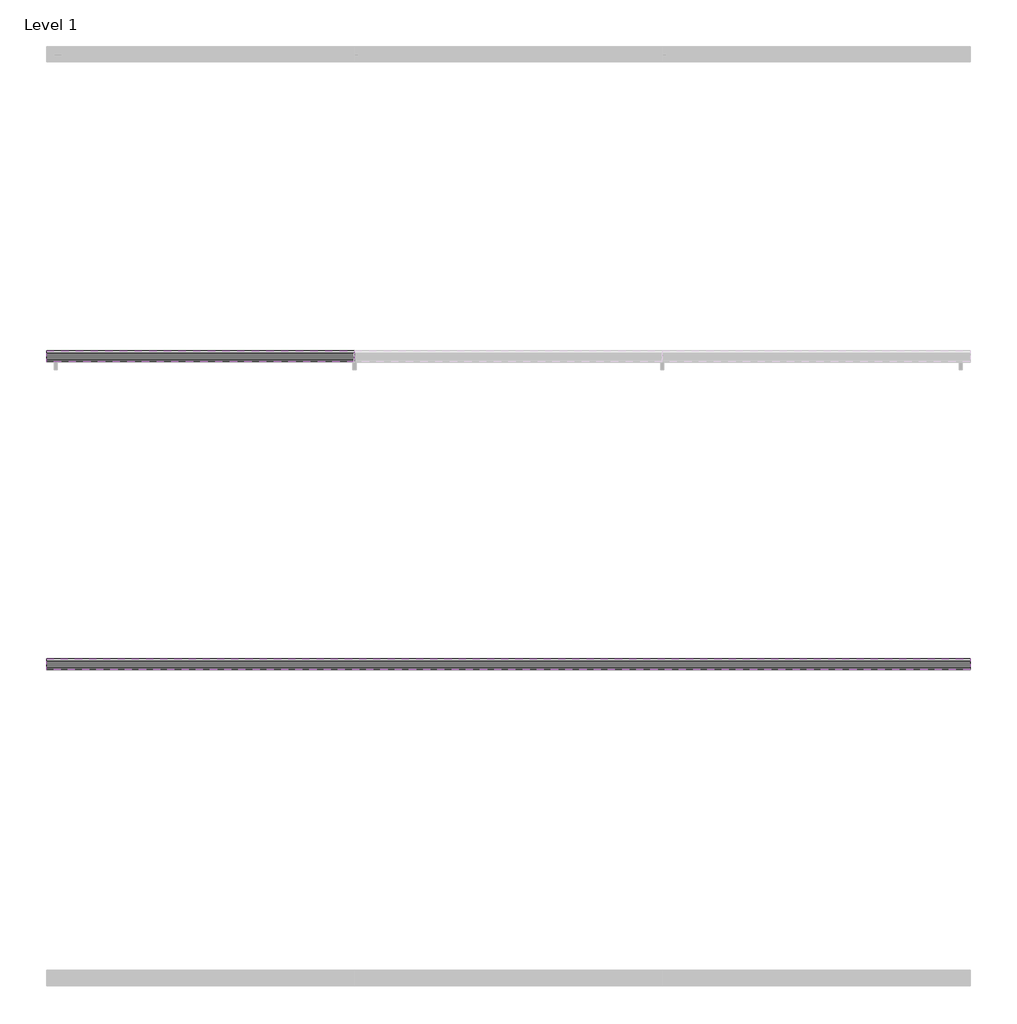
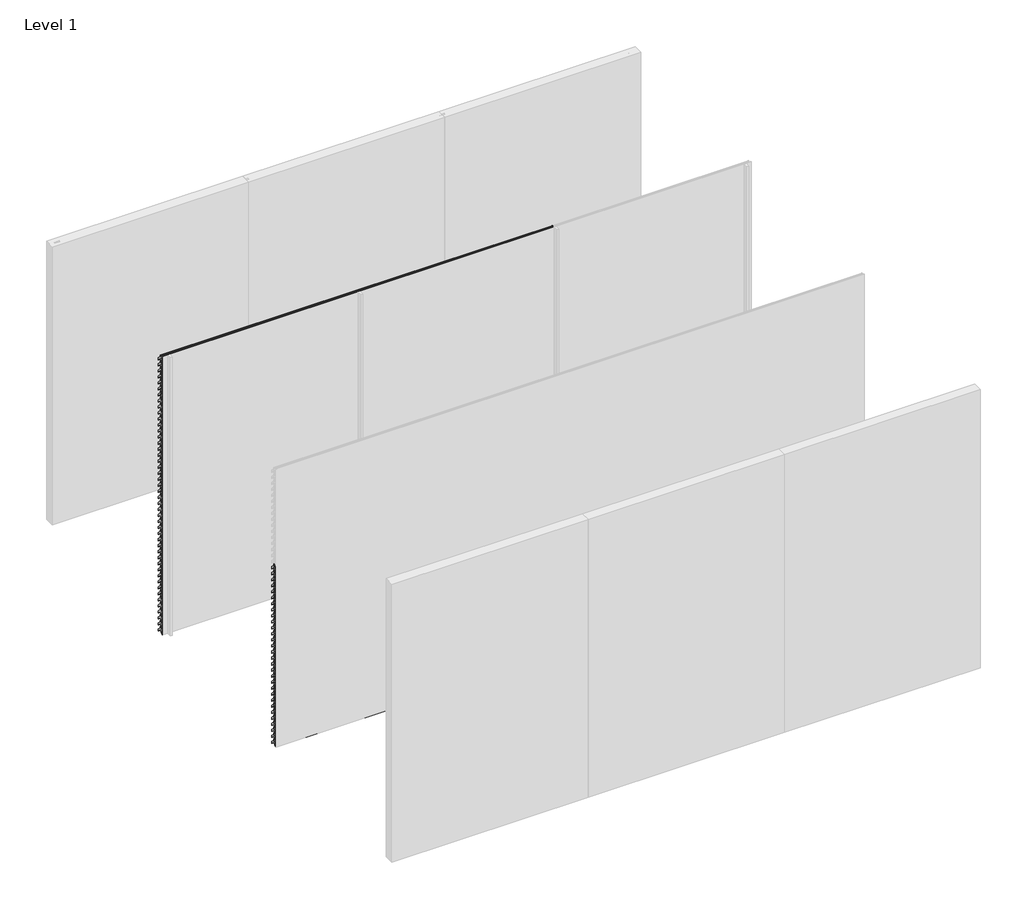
# One storey, part 6 of 9: 86 proxies.
"""IFC4 building model written with IfcOpenShell, lengths in millimetres."""

from ifc_helpers import new_model, si_unit, frame, origin, place, context, project, spatial, polyline, outline, extrude, element, save

model = new_model("IFC4")

# Units and contexts
model_context = context("Model", 3, world=origin())
ifc_project = project(units=[si_unit("LENGTHUNIT", "METRE", prefix="MILLI")], contexts=[model_context])

# Site, building, storey
site = spatial("IfcSite", under=ifc_project)
building = spatial("IfcBuilding", under=site)
storey = spatial("IfcBuildingStorey", under=building, Name="Level 1", Elevation=0.0)

# Proxies
placement = place(None, origin())
element("IfcBuildingElementProxy", 1, Name="Wall Sweeps", at=placement, inside=storey, context=model_context, shape_type="SweptSolid", body=[
    extrude(outline(polyline([(-5926.0, 2942.0), (-5926.0, 2919.0), (-5961.5, 2954.5), (-5997.0, 2919.0), (-5997.0, 2942.0), (-5962.5, 2976.5), (-5962.5, 2990.0), (-5960.5, 2990.0), (-5960.5, 2976.5), (-5926.0, 2942.0)])), frame((0.0, 0.0, 0.0), z_axis=(1.0, 0.0, 0.0), x_axis=(0.0, 1.0, 0.0)), (0.0, 0.0, 1.0), 2000.0),
])
element("IfcBuildingElementProxy", 2, Name="Wall Sweeps", at=placement, inside=storey, context=model_context, shape_type="SweptSolid", body=[
    extrude(outline(polyline([(-5926.0, 2877.0), (-5926.0, 2854.0), (-5961.5, 2889.5), (-5997.0, 2854.0), (-5997.0, 2877.0), (-5962.5, 2911.5), (-5962.5, 2925.0), (-5960.5, 2925.0), (-5960.5, 2911.5), (-5926.0, 2877.0)])), frame((0.0, 0.0, 0.0), z_axis=(1.0, 0.0, 0.0), x_axis=(0.0, 1.0, 0.0)), (0.0, 0.0, 1.0), 2000.0),
])
element("IfcBuildingElementProxy", 3, Name="Wall Sweeps", at=placement, inside=storey, context=model_context, shape_type="SweptSolid", body=[
    extrude(outline(polyline([(-5926.0, 2812.0), (-5926.0, 2789.0), (-5961.5, 2824.5), (-5997.0, 2789.0), (-5997.0, 2812.0), (-5962.5, 2846.5), (-5962.5, 2860.0), (-5960.5, 2860.0), (-5960.5, 2846.5), (-5926.0, 2812.0)])), frame((0.0, 0.0, 0.0), z_axis=(1.0, 0.0, 0.0), x_axis=(0.0, 1.0, 0.0)), (0.0, 0.0, 1.0), 2000.0),
])
element("IfcBuildingElementProxy", 4, Name="Wall Sweeps", at=placement, inside=storey, context=model_context, shape_type="SweptSolid", body=[
    extrude(outline(polyline([(-5926.0, 2747.0), (-5926.0, 2724.0), (-5961.5, 2759.5), (-5997.0, 2724.0), (-5997.0, 2747.0), (-5962.5, 2781.5), (-5962.5, 2795.0), (-5960.5, 2795.0), (-5960.5, 2781.5), (-5926.0, 2747.0)])), frame((0.0, 0.0, 0.0), z_axis=(1.0, 0.0, 0.0), x_axis=(0.0, 1.0, 0.0)), (0.0, 0.0, 1.0), 2000.0),
])
element("IfcBuildingElementProxy", 5, Name="Wall Sweeps", at=placement, inside=storey, context=model_context, shape_type="SweptSolid", body=[
    extrude(outline(polyline([(-5926.0, 2682.0), (-5926.0, 2659.0), (-5961.5, 2694.5), (-5997.0, 2659.0), (-5997.0, 2682.0), (-5962.5, 2716.5), (-5962.5, 2730.0), (-5960.5, 2730.0), (-5960.5, 2716.5), (-5926.0, 2682.0)])), frame((0.0, 0.0, 0.0), z_axis=(1.0, 0.0, 0.0), x_axis=(0.0, 1.0, 0.0)), (0.0, 0.0, 1.0), 2000.0),
])
element("IfcBuildingElementProxy", 6, Name="Wall Sweeps", at=placement, inside=storey, context=model_context, shape_type="SweptSolid", body=[
    extrude(outline(polyline([(-5926.0, 2617.0), (-5926.0, 2594.0), (-5961.5, 2629.5), (-5997.0, 2594.0), (-5997.0, 2617.0), (-5962.5, 2651.5), (-5962.5, 2665.0), (-5960.5, 2665.0), (-5960.5, 2651.5), (-5926.0, 2617.0)])), frame((0.0, 0.0, 0.0), z_axis=(1.0, 0.0, 0.0), x_axis=(0.0, 1.0, 0.0)), (0.0, 0.0, 1.0), 2000.0),
])
element("IfcBuildingElementProxy", 7, Name="Wall Sweeps", at=placement, inside=storey, context=model_context, shape_type="SweptSolid", body=[
    extrude(outline(polyline([(-5926.0, 2552.0), (-5926.0, 2529.0), (-5961.5, 2564.5), (-5997.0, 2529.0), (-5997.0, 2552.0), (-5962.5, 2586.5), (-5962.5, 2600.0), (-5960.5, 2600.0), (-5960.5, 2586.5), (-5926.0, 2552.0)])), frame((0.0, 0.0, 0.0), z_axis=(1.0, 0.0, 0.0), x_axis=(0.0, 1.0, 0.0)), (0.0, 0.0, 1.0), 2000.0),
])
element("IfcBuildingElementProxy", 8, Name="Wall Sweeps", at=placement, inside=storey, context=model_context, shape_type="SweptSolid", body=[
    extrude(outline(polyline([(-5926.0, 2487.0), (-5926.0, 2464.0), (-5961.5, 2499.5), (-5997.0, 2464.0), (-5997.0, 2487.0), (-5962.5, 2521.5), (-5962.5, 2535.0), (-5960.5, 2535.0), (-5960.5, 2521.5), (-5926.0, 2487.0)])), frame((0.0, 0.0, 0.0), z_axis=(1.0, 0.0, 0.0), x_axis=(0.0, 1.0, 0.0)), (0.0, 0.0, 1.0), 2000.0),
])
element("IfcBuildingElementProxy", 9, Name="Wall Sweeps", at=placement, inside=storey, context=model_context, shape_type="SweptSolid", body=[
    extrude(outline(polyline([(-5926.0, 2422.0), (-5926.0, 2399.0), (-5961.5, 2434.5), (-5997.0, 2399.0), (-5997.0, 2422.0), (-5962.5, 2456.5), (-5962.5, 2470.0), (-5960.5, 2470.0), (-5960.5, 2456.5), (-5926.0, 2422.0)])), frame((0.0, 0.0, 0.0), z_axis=(1.0, 0.0, 0.0), x_axis=(0.0, 1.0, 0.0)), (0.0, 0.0, 1.0), 2000.0),
])
element("IfcBuildingElementProxy", 10, Name="Wall Sweeps", at=placement, inside=storey, context=model_context, shape_type="SweptSolid", body=[
    extrude(outline(polyline([(-5926.0, 2357.0), (-5926.0, 2334.0), (-5961.5, 2369.5), (-5997.0, 2334.0), (-5997.0, 2357.0), (-5962.5, 2391.5), (-5962.5, 2405.0), (-5960.5, 2405.0), (-5960.5, 2391.5), (-5926.0, 2357.0)])), frame((0.0, 0.0, 0.0), z_axis=(1.0, 0.0, 0.0), x_axis=(0.0, 1.0, 0.0)), (0.0, 0.0, 1.0), 2000.0),
])
element("IfcBuildingElementProxy", 11, Name="Wall Sweeps", at=placement, inside=storey, context=model_context, shape_type="SweptSolid", body=[
    extrude(outline(polyline([(-5926.0, 2292.0), (-5926.0, 2269.0), (-5961.5, 2304.5), (-5997.0, 2269.0), (-5997.0, 2292.0), (-5962.5, 2326.5), (-5962.5, 2340.0), (-5960.5, 2340.0), (-5960.5, 2326.5), (-5926.0, 2292.0)])), frame((0.0, 0.0, 0.0), z_axis=(1.0, 0.0, 0.0), x_axis=(0.0, 1.0, 0.0)), (0.0, 0.0, 1.0), 2000.0),
])
element("IfcBuildingElementProxy", 12, Name="Wall Sweeps", at=placement, inside=storey, context=model_context, shape_type="SweptSolid", body=[
    extrude(outline(polyline([(-5926.0, 2227.0), (-5926.0, 2204.0), (-5961.5, 2239.5), (-5997.0, 2204.0), (-5997.0, 2227.0), (-5962.5, 2261.5), (-5962.5, 2275.0), (-5960.5, 2275.0), (-5960.5, 2261.5), (-5926.0, 2227.0)])), frame((0.0, 0.0, 0.0), z_axis=(1.0, 0.0, 0.0), x_axis=(0.0, 1.0, 0.0)), (0.0, 0.0, 1.0), 2000.0),
])
element("IfcBuildingElementProxy", 13, Name="Wall Sweeps", at=placement, inside=storey, context=model_context, shape_type="SweptSolid", body=[
    extrude(outline(polyline([(-5926.0, 2162.0), (-5926.0, 2139.0), (-5961.5, 2174.5), (-5997.0, 2139.0), (-5997.0, 2162.0), (-5962.5, 2196.5), (-5962.5, 2210.0), (-5960.5, 2210.0), (-5960.5, 2196.5), (-5926.0, 2162.0)])), frame((0.0, 0.0, 0.0), z_axis=(1.0, 0.0, 0.0), x_axis=(0.0, 1.0, 0.0)), (0.0, 0.0, 1.0), 2000.0),
])
element("IfcBuildingElementProxy", 14, Name="Wall Sweeps", at=placement, inside=storey, context=model_context, shape_type="SweptSolid", body=[
    extrude(outline(polyline([(-5926.0, 2097.0), (-5926.0, 2074.0), (-5961.5, 2109.5), (-5997.0, 2074.0), (-5997.0, 2097.0), (-5962.5, 2131.5), (-5962.5, 2145.0), (-5960.5, 2145.0), (-5960.5, 2131.5), (-5926.0, 2097.0)])), frame((0.0, 0.0, 0.0), z_axis=(1.0, 0.0, 0.0), x_axis=(0.0, 1.0, 0.0)), (0.0, 0.0, 1.0), 2000.0),
])
element("IfcBuildingElementProxy", 15, Name="Wall Sweeps", at=placement, inside=storey, context=model_context, shape_type="SweptSolid", body=[
    extrude(outline(polyline([(-5926.0, 2032.0), (-5926.0, 2009.0), (-5961.5, 2044.5), (-5997.0, 2009.0), (-5997.0, 2032.0), (-5962.5, 2066.5), (-5962.5, 2080.0), (-5960.5, 2080.0), (-5960.5, 2066.5), (-5926.0, 2032.0)])), frame((0.0, 0.0, 0.0), z_axis=(1.0, 0.0, 0.0), x_axis=(0.0, 1.0, 0.0)), (0.0, 0.0, 1.0), 2000.0),
])
element("IfcBuildingElementProxy", 16, Name="Wall Sweeps", at=placement, inside=storey, context=model_context, shape_type="SweptSolid", body=[
    extrude(outline(polyline([(-5926.0, 1967.0), (-5926.0, 1944.0), (-5961.5, 1979.5), (-5997.0, 1944.0), (-5997.0, 1967.0), (-5962.5, 2001.5), (-5962.5, 2015.0), (-5960.5, 2015.0), (-5960.5, 2001.5), (-5926.0, 1967.0)])), frame((0.0, 0.0, 0.0), z_axis=(1.0, 0.0, 0.0), x_axis=(0.0, 1.0, 0.0)), (0.0, 0.0, 1.0), 2000.0),
])
element("IfcBuildingElementProxy", 17, Name="Wall Sweeps", at=placement, inside=storey, context=model_context, shape_type="SweptSolid", body=[
    extrude(outline(polyline([(-5926.0, 1902.0), (-5926.0, 1879.0), (-5961.5, 1914.5), (-5997.0, 1879.0), (-5997.0, 1902.0), (-5962.5, 1936.5), (-5962.5, 1950.0), (-5960.5, 1950.0), (-5960.5, 1936.5), (-5926.0, 1902.0)])), frame((0.0, 0.0, 0.0), z_axis=(1.0, 0.0, 0.0), x_axis=(0.0, 1.0, 0.0)), (0.0, 0.0, 1.0), 2000.0),
])
element("IfcBuildingElementProxy", 18, Name="Wall Sweeps", at=placement, inside=storey, context=model_context, shape_type="SweptSolid", body=[
    extrude(outline(polyline([(-5926.0, 1837.0), (-5926.0, 1814.0), (-5961.5, 1849.5), (-5997.0, 1814.0), (-5997.0, 1837.0), (-5962.5, 1871.5), (-5962.5, 1885.0), (-5960.5, 1885.0), (-5960.5, 1871.5), (-5926.0, 1837.0)])), frame((0.0, 0.0, 0.0), z_axis=(1.0, 0.0, 0.0), x_axis=(0.0, 1.0, 0.0)), (0.0, 0.0, 1.0), 2000.0),
])
element("IfcBuildingElementProxy", 19, Name="Wall Sweeps", at=placement, inside=storey, context=model_context, shape_type="SweptSolid", body=[
    extrude(outline(polyline([(-5926.0, 1772.0), (-5926.0, 1749.0), (-5961.5, 1784.5), (-5997.0, 1749.0), (-5997.0, 1772.0), (-5962.5, 1806.5), (-5962.5, 1820.0), (-5960.5, 1820.0), (-5960.5, 1806.5), (-5926.0, 1772.0)])), frame((0.0, 0.0, 0.0), z_axis=(1.0, 0.0, 0.0), x_axis=(0.0, 1.0, 0.0)), (0.0, 0.0, 1.0), 2000.0),
])
element("IfcBuildingElementProxy", 20, Name="Wall Sweeps", at=placement, inside=storey, context=model_context, shape_type="SweptSolid", body=[
    extrude(outline(polyline([(-5926.0, 1707.0), (-5926.0, 1684.0), (-5961.5, 1719.5), (-5997.0, 1684.0), (-5997.0, 1707.0), (-5962.5, 1741.5), (-5962.5, 1755.0), (-5960.5, 1755.0), (-5960.5, 1741.5), (-5926.0, 1707.0)])), frame((0.0, 0.0, 0.0), z_axis=(1.0, 0.0, 0.0), x_axis=(0.0, 1.0, 0.0)), (0.0, 0.0, 1.0), 2000.0),
])
element("IfcBuildingElementProxy", 21, Name="Wall Sweeps", at=placement, inside=storey, context=model_context, shape_type="SweptSolid", body=[
    extrude(outline(polyline([(-5926.0, 1642.0), (-5926.0, 1619.0), (-5961.5, 1654.5), (-5997.0, 1619.0), (-5997.0, 1642.0), (-5962.5, 1676.5), (-5962.5, 1690.0), (-5960.5, 1690.0), (-5960.5, 1676.5), (-5926.0, 1642.0)])), frame((0.0, 0.0, 0.0), z_axis=(1.0, 0.0, 0.0), x_axis=(0.0, 1.0, 0.0)), (0.0, 0.0, 1.0), 2000.0),
])
element("IfcBuildingElementProxy", 22, Name="Wall Sweeps", at=placement, inside=storey, context=model_context, shape_type="SweptSolid", body=[
    extrude(outline(polyline([(-5926.0, 1577.0), (-5926.0, 1554.0), (-5961.5, 1589.5), (-5997.0, 1554.0), (-5997.0, 1577.0), (-5962.5, 1611.5), (-5962.5, 1625.0), (-5960.5, 1625.0), (-5960.5, 1611.5), (-5926.0, 1577.0)])), frame((0.0, 0.0, 0.0), z_axis=(1.0, 0.0, 0.0), x_axis=(0.0, 1.0, 0.0)), (0.0, 0.0, 1.0), 2000.0),
])
element("IfcBuildingElementProxy", 23, Name="Wall Sweeps", at=placement, inside=storey, context=model_context, shape_type="SweptSolid", body=[
    extrude(outline(polyline([(-5926.0, 1512.0), (-5926.0, 1489.0), (-5961.5, 1524.5), (-5997.0, 1489.0), (-5997.0, 1512.0), (-5962.5, 1546.5), (-5962.5, 1560.0), (-5960.5, 1560.0), (-5960.5, 1546.5), (-5926.0, 1512.0)])), frame((0.0, 0.0, 0.0), z_axis=(1.0, 0.0, 0.0), x_axis=(0.0, 1.0, 0.0)), (0.0, 0.0, 1.0), 2000.0),
])
element("IfcBuildingElementProxy", 24, Name="Wall Sweeps", at=placement, inside=storey, context=model_context, shape_type="SweptSolid", body=[
    extrude(outline(polyline([(-5926.0, 1447.0), (-5926.0, 1424.0), (-5961.5, 1459.5), (-5997.0, 1424.0), (-5997.0, 1447.0), (-5962.5, 1481.5), (-5962.5, 1495.0), (-5960.5, 1495.0), (-5960.5, 1481.5), (-5926.0, 1447.0)])), frame((0.0, 0.0, 0.0), z_axis=(1.0, 0.0, 0.0), x_axis=(0.0, 1.0, 0.0)), (0.0, 0.0, 1.0), 2000.0),
])
element("IfcBuildingElementProxy", 25, Name="Wall Sweeps", at=placement, inside=storey, context=model_context, shape_type="SweptSolid", body=[
    extrude(outline(polyline([(-5926.0, 1382.0), (-5926.0, 1359.0), (-5961.5, 1394.5), (-5997.0, 1359.0), (-5997.0, 1382.0), (-5962.5, 1416.5), (-5962.5, 1430.0), (-5960.5, 1430.0), (-5960.5, 1416.5), (-5926.0, 1382.0)])), frame((0.0, 0.0, 0.0), z_axis=(1.0, 0.0, 0.0), x_axis=(0.0, 1.0, 0.0)), (0.0, 0.0, 1.0), 2000.0),
])
element("IfcBuildingElementProxy", 26, Name="Wall Sweeps", at=placement, inside=storey, context=model_context, shape_type="SweptSolid", body=[
    extrude(outline(polyline([(-5926.0, 1317.0), (-5926.0, 1294.0), (-5961.5, 1329.5), (-5997.0, 1294.0), (-5997.0, 1317.0), (-5962.5, 1351.5), (-5962.5, 1365.0), (-5960.5, 1365.0), (-5960.5, 1351.5), (-5926.0, 1317.0)])), frame((0.0, 0.0, 0.0), z_axis=(1.0, 0.0, 0.0), x_axis=(0.0, 1.0, 0.0)), (0.0, 0.0, 1.0), 2000.0),
])
element("IfcBuildingElementProxy", 27, Name="Wall Sweeps", at=placement, inside=storey, context=model_context, shape_type="SweptSolid", body=[
    extrude(outline(polyline([(-5926.0, 1252.0), (-5926.0, 1229.0), (-5961.5, 1264.5), (-5997.0, 1229.0), (-5997.0, 1252.0), (-5962.5, 1286.5), (-5962.5, 1300.0), (-5960.5, 1300.0), (-5960.5, 1286.5), (-5926.0, 1252.0)])), frame((0.0, 0.0, 0.0), z_axis=(1.0, 0.0, 0.0), x_axis=(0.0, 1.0, 0.0)), (0.0, 0.0, 1.0), 2000.0),
])
element("IfcBuildingElementProxy", 28, Name="Wall Sweeps", at=placement, inside=storey, context=model_context, shape_type="SweptSolid", body=[
    extrude(outline(polyline([(-5926.0, 1187.0), (-5926.0, 1164.0), (-5961.5, 1199.5), (-5997.0, 1164.0), (-5997.0, 1187.0), (-5962.5, 1221.5), (-5962.5, 1235.0), (-5960.5, 1235.0), (-5960.5, 1221.5), (-5926.0, 1187.0)])), frame((0.0, 0.0, 0.0), z_axis=(1.0, 0.0, 0.0), x_axis=(0.0, 1.0, 0.0)), (0.0, 0.0, 1.0), 2000.0),
])
element("IfcBuildingElementProxy", 29, Name="Wall Sweeps", at=placement, inside=storey, context=model_context, shape_type="SweptSolid", body=[
    extrude(outline(polyline([(-5926.0, 1122.0), (-5926.0, 1099.0), (-5961.5, 1134.5), (-5997.0, 1099.0), (-5997.0, 1122.0), (-5962.5, 1156.5), (-5962.5, 1170.0), (-5960.5, 1170.0), (-5960.5, 1156.5), (-5926.0, 1122.0)])), frame((0.0, 0.0, 0.0), z_axis=(1.0, 0.0, 0.0), x_axis=(0.0, 1.0, 0.0)), (0.0, 0.0, 1.0), 2000.0),
])
element("IfcBuildingElementProxy", 30, Name="Wall Sweeps", at=placement, inside=storey, context=model_context, shape_type="SweptSolid", body=[
    extrude(outline(polyline([(-5926.0, 1057.0), (-5926.0, 1034.0), (-5961.5, 1069.5), (-5997.0, 1034.0), (-5997.0, 1057.0), (-5962.5, 1091.5), (-5962.5, 1105.0), (-5960.5, 1105.0), (-5960.5, 1091.5), (-5926.0, 1057.0)])), frame((0.0, 0.0, 0.0), z_axis=(1.0, 0.0, 0.0), x_axis=(0.0, 1.0, 0.0)), (0.0, 0.0, 1.0), 2000.0),
])
element("IfcBuildingElementProxy", 31, Name="Wall Sweeps", at=placement, inside=storey, context=model_context, shape_type="SweptSolid", body=[
    extrude(outline(polyline([(-5926.0, 992.0), (-5926.0, 969.0), (-5961.5, 1004.5), (-5997.0, 969.0), (-5997.0, 992.0), (-5962.5, 1026.5), (-5962.5, 1040.0), (-5960.5, 1040.0), (-5960.5, 1026.5), (-5926.0, 992.0)])), frame((0.0, 0.0, 0.0), z_axis=(1.0, 0.0, 0.0), x_axis=(0.0, 1.0, 0.0)), (0.0, 0.0, 1.0), 2000.0),
])
element("IfcBuildingElementProxy", 32, Name="Wall Sweeps", at=placement, inside=storey, context=model_context, shape_type="SweptSolid", body=[
    extrude(outline(polyline([(-5926.0, 927.0), (-5926.0, 904.0), (-5961.5, 939.5), (-5997.0, 904.0), (-5997.0, 927.0), (-5962.5, 961.5), (-5962.5, 975.0), (-5960.5, 975.0), (-5960.5, 961.5), (-5926.0, 927.0)])), frame((0.0, 0.0, 0.0), z_axis=(1.0, 0.0, 0.0), x_axis=(0.0, 1.0, 0.0)), (0.0, 0.0, 1.0), 2000.0),
])
element("IfcBuildingElementProxy", 33, Name="Wall Sweeps", at=placement, inside=storey, context=model_context, shape_type="SweptSolid", body=[
    extrude(outline(polyline([(-5926.0, 862.0), (-5926.0, 839.0), (-5961.5, 874.5), (-5997.0, 839.0), (-5997.0, 862.0), (-5962.5, 896.5), (-5962.5, 910.0), (-5960.5, 910.0), (-5960.5, 896.5), (-5926.0, 862.0)])), frame((0.0, 0.0, 0.0), z_axis=(1.0, 0.0, 0.0), x_axis=(0.0, 1.0, 0.0)), (0.0, 0.0, 1.0), 2000.0),
])
element("IfcBuildingElementProxy", 34, Name="Wall Sweeps", at=placement, inside=storey, context=model_context, shape_type="SweptSolid", body=[
    extrude(outline(polyline([(-5926.0, 797.0), (-5926.0, 774.0), (-5961.5, 809.5), (-5997.0, 774.0), (-5997.0, 797.0), (-5962.5, 831.5), (-5962.5, 845.0), (-5960.5, 845.0), (-5960.5, 831.5), (-5926.0, 797.0)])), frame((0.0, 0.0, 0.0), z_axis=(1.0, 0.0, 0.0), x_axis=(0.0, 1.0, 0.0)), (0.0, 0.0, 1.0), 2000.0),
])
element("IfcBuildingElementProxy", 35, Name="Wall Sweeps", at=placement, inside=storey, context=model_context, shape_type="SweptSolid", body=[
    extrude(outline(polyline([(-5926.0, 732.0), (-5926.0, 709.0), (-5961.5, 744.5), (-5997.0, 709.0), (-5997.0, 732.0), (-5962.5, 766.5), (-5962.5, 780.0), (-5960.5, 780.0), (-5960.5, 766.5), (-5926.0, 732.0)])), frame((0.0, 0.0, 0.0), z_axis=(1.0, 0.0, 0.0), x_axis=(0.0, 1.0, 0.0)), (0.0, 0.0, 1.0), 2000.0),
])
element("IfcBuildingElementProxy", 36, Name="Wall Sweeps", at=placement, inside=storey, context=model_context, shape_type="SweptSolid", body=[
    extrude(outline(polyline([(-5926.0, 667.0), (-5926.0, 644.0), (-5961.5, 679.5), (-5997.0, 644.0), (-5997.0, 667.0), (-5962.5, 701.5), (-5962.5, 715.0), (-5960.5, 715.0), (-5960.5, 701.5), (-5926.0, 667.0)])), frame((0.0, 0.0, 0.0), z_axis=(1.0, 0.0, 0.0), x_axis=(0.0, 1.0, 0.0)), (0.0, 0.0, 1.0), 2000.0),
])
element("IfcBuildingElementProxy", 37, Name="Wall Sweeps", at=placement, inside=storey, context=model_context, shape_type="SweptSolid", body=[
    extrude(outline(polyline([(-5926.0, 602.0), (-5926.0, 579.0), (-5961.5, 614.5), (-5997.0, 579.0), (-5997.0, 602.0), (-5962.5, 636.5), (-5962.5, 650.0), (-5960.5, 650.0), (-5960.5, 636.5), (-5926.0, 602.0)])), frame((0.0, 0.0, 0.0), z_axis=(1.0, 0.0, 0.0), x_axis=(0.0, 1.0, 0.0)), (0.0, 0.0, 1.0), 2000.0),
])
element("IfcBuildingElementProxy", 38, Name="Wall Sweeps", at=placement, inside=storey, context=model_context, shape_type="SweptSolid", body=[
    extrude(outline(polyline([(-5926.0, 537.0), (-5926.0, 514.0), (-5961.5, 549.5), (-5997.0, 514.0), (-5997.0, 537.0), (-5962.5, 571.5), (-5962.5, 585.0), (-5960.5, 585.0), (-5960.5, 571.5), (-5926.0, 537.0)])), frame((0.0, 0.0, 0.0), z_axis=(1.0, 0.0, 0.0), x_axis=(0.0, 1.0, 0.0)), (0.0, 0.0, 1.0), 2000.0),
])
element("IfcBuildingElementProxy", 39, Name="Wall Sweeps", at=placement, inside=storey, context=model_context, shape_type="SweptSolid", body=[
    extrude(outline(polyline([(-5926.0, 472.0), (-5926.0, 449.0), (-5961.5, 484.5), (-5997.0, 449.0), (-5997.0, 472.0), (-5962.5, 506.5), (-5962.5, 520.0), (-5960.5, 520.0), (-5960.5, 506.5), (-5926.0, 472.0)])), frame((0.0, 0.0, 0.0), z_axis=(1.0, 0.0, 0.0), x_axis=(0.0, 1.0, 0.0)), (0.0, 0.0, 1.0), 2000.0),
])
element("IfcBuildingElementProxy", 40, Name="Wall Sweeps", at=placement, inside=storey, context=model_context, shape_type="SweptSolid", body=[
    extrude(outline(polyline([(-5926.0, 407.0), (-5926.0, 384.0), (-5961.5, 419.5), (-5997.0, 384.0), (-5997.0, 407.0), (-5962.5, 441.5), (-5962.5, 455.0), (-5960.5, 455.0), (-5960.5, 441.5), (-5926.0, 407.0)])), frame((0.0, 0.0, 0.0), z_axis=(1.0, 0.0, 0.0), x_axis=(0.0, 1.0, 0.0)), (0.0, 0.0, 1.0), 2000.0),
])
element("IfcBuildingElementProxy", 41, Name="Wall Sweeps", at=placement, inside=storey, context=model_context, shape_type="SweptSolid", body=[
    extrude(outline(polyline([(-5926.0, 342.0), (-5926.0, 319.0), (-5961.5, 354.5), (-5997.0, 319.0), (-5997.0, 342.0), (-5962.5, 376.5), (-5962.5, 390.0), (-5960.5, 390.0), (-5960.5, 376.5), (-5926.0, 342.0)])), frame((0.0, 0.0, 0.0), z_axis=(1.0, 0.0, 0.0), x_axis=(0.0, 1.0, 0.0)), (0.0, 0.0, 1.0), 2000.0),
])
element("IfcBuildingElementProxy", 42, Name="Wall Sweeps", at=placement, inside=storey, context=model_context, shape_type="SweptSolid", body=[
    extrude(outline(polyline([(-5926.0, 277.0), (-5926.0, 254.0), (-5961.5, 289.5), (-5997.0, 254.0), (-5997.0, 277.0), (-5962.5, 311.5), (-5962.5, 325.0), (-5960.5, 325.0), (-5960.5, 311.5), (-5926.0, 277.0)])), frame((0.0, 0.0, 0.0), z_axis=(1.0, 0.0, 0.0), x_axis=(0.0, 1.0, 0.0)), (0.0, 0.0, 1.0), 2000.0),
])
element("IfcBuildingElementProxy", 43, Name="Wall Sweeps", at=placement, inside=storey, context=model_context, shape_type="SweptSolid", body=[
    extrude(outline(polyline([(-5926.0, 212.0), (-5926.0, 189.0), (-5961.5, 224.5), (-5997.0, 189.0), (-5997.0, 212.0), (-5962.5, 246.5), (-5962.5, 260.0), (-5960.5, 260.0), (-5960.5, 246.5), (-5926.0, 212.0)])), frame((0.0, 0.0, 0.0), z_axis=(1.0, 0.0, 0.0), x_axis=(0.0, 1.0, 0.0)), (0.0, 0.0, 1.0), 2000.0),
])
element("IfcBuildingElementProxy", 44, Name="Wall Sweeps", at=placement, inside=storey, context=model_context, shape_type="SweptSolid", body=[
    extrude(outline(polyline([(-5926.0, 147.0), (-5926.0, 124.0), (-5961.5, 159.5), (-5997.0, 124.0), (-5997.0, 147.0), (-5962.5, 181.5), (-5962.5, 195.0), (-5960.5, 195.0), (-5960.5, 181.5), (-5926.0, 147.0)])), frame((0.0, 0.0, 0.0), z_axis=(1.0, 0.0, 0.0), x_axis=(0.0, 1.0, 0.0)), (0.0, 0.0, 1.0), 2000.0),
])
element("IfcBuildingElementProxy", 45, Name="Wall Sweeps", at=placement, inside=storey, context=model_context, shape_type="SweptSolid", body=[
    extrude(outline(polyline([(-5926.0, 82.0), (-5926.0, 59.0), (-5961.5, 94.5), (-5997.0, 59.0), (-5997.0, 82.0), (-5962.5, 116.5), (-5962.5, 130.0), (-5960.5, 130.0), (-5960.5, 116.5), (-5926.0, 82.0)])), frame((0.0, 0.0, 0.0), z_axis=(1.0, 0.0, 0.0), x_axis=(0.0, 1.0, 0.0)), (0.0, 0.0, 1.0), 2000.0),
])
element("IfcBuildingElementProxy", 46, Name="Wall Sweeps", at=placement, inside=storey, context=model_context, shape_type="SweptSolid", body=[
    extrude(outline(polyline([(-5926.0, 17.0), (-5926.0, -6.0), (-5961.5, 29.5), (-5997.0, -6.0), (-5997.0, 17.0), (-5962.5, 51.5), (-5962.5, 65.0), (-5960.5, 65.0), (-5960.5, 51.5), (-5926.0, 17.0)])), frame((0.0, 0.0, 0.0), z_axis=(1.0, 0.0, 0.0), x_axis=(0.0, 1.0, 0.0)), (0.0, 0.0, 1.0), 2000.0),
])
element("IfcBuildingElementProxy", 47, Name="Wall Sweeps", at=placement, inside=storey, context=model_context, shape_type="SweptSolid", body=[
    extrude(outline(polyline([(-5926.0, 2942.0), (-5926.0, 2919.0), (-5961.5, 2954.5), (-5997.0, 2919.0), (-5997.0, 2942.0), (-5962.5, 2976.5), (-5962.5, 2990.0), (-5960.5, 2990.0), (-5960.5, 2976.5), (-5926.0, 2942.0)])), frame((2000.0, 0.0, 0.0), z_axis=(1.0, 0.0, 0.0), x_axis=(0.0, 1.0, 0.0)), (0.0, 0.0, 1.0), 2000.0),
])
element("IfcBuildingElementProxy", 48, Name="Wall Sweeps", at=placement, inside=storey, context=model_context, shape_type="SweptSolid", body=[
    extrude(outline(polyline([(-5926.0, 2877.0), (-5926.0, 2854.0), (-5961.5, 2889.5), (-5997.0, 2854.0), (-5997.0, 2877.0), (-5962.5, 2911.5), (-5962.5, 2925.0), (-5960.5, 2925.0), (-5960.5, 2911.5), (-5926.0, 2877.0)])), frame((2000.0, 0.0, 0.0), z_axis=(1.0, 0.0, 0.0), x_axis=(0.0, 1.0, 0.0)), (0.0, 0.0, 1.0), 2000.0),
])
element("IfcBuildingElementProxy", 49, Name="Wall Sweeps", at=placement, inside=storey, context=model_context, shape_type="SweptSolid", body=[
    extrude(outline(polyline([(-5926.0, 2812.0), (-5926.0, 2789.0), (-5961.5, 2824.5), (-5997.0, 2789.0), (-5997.0, 2812.0), (-5962.5, 2846.5), (-5962.5, 2860.0), (-5960.5, 2860.0), (-5960.5, 2846.5), (-5926.0, 2812.0)])), frame((2000.0, 0.0, 0.0), z_axis=(1.0, 0.0, 0.0), x_axis=(0.0, 1.0, 0.0)), (0.0, 0.0, 1.0), 2000.0),
])
element("IfcBuildingElementProxy", 50, Name="Wall Sweeps", at=placement, inside=storey, context=model_context, shape_type="SweptSolid", body=[
    extrude(outline(polyline([(-5926.0, 2747.0), (-5926.0, 2724.0), (-5961.5, 2759.5), (-5997.0, 2724.0), (-5997.0, 2747.0), (-5962.5, 2781.5), (-5962.5, 2795.0), (-5960.5, 2795.0), (-5960.5, 2781.5), (-5926.0, 2747.0)])), frame((2000.0, 0.0, 0.0), z_axis=(1.0, 0.0, 0.0), x_axis=(0.0, 1.0, 0.0)), (0.0, 0.0, 1.0), 2000.0),
])
element("IfcBuildingElementProxy", 51, Name="Wall Sweeps", at=placement, inside=storey, context=model_context, shape_type="SweptSolid", body=[
    extrude(outline(polyline([(-5926.0, 2682.0), (-5926.0, 2659.0), (-5961.5, 2694.5), (-5997.0, 2659.0), (-5997.0, 2682.0), (-5962.5, 2716.5), (-5962.5, 2730.0), (-5960.5, 2730.0), (-5960.5, 2716.5), (-5926.0, 2682.0)])), frame((2000.0, 0.0, 0.0), z_axis=(1.0, 0.0, 0.0), x_axis=(0.0, 1.0, 0.0)), (0.0, 0.0, 1.0), 2000.0),
])
element("IfcBuildingElementProxy", 52, Name="Wall Sweeps", at=placement, inside=storey, context=model_context, shape_type="SweptSolid", body=[
    extrude(outline(polyline([(-5926.0, 2617.0), (-5926.0, 2594.0), (-5961.5, 2629.5), (-5997.0, 2594.0), (-5997.0, 2617.0), (-5962.5, 2651.5), (-5962.5, 2665.0), (-5960.5, 2665.0), (-5960.5, 2651.5), (-5926.0, 2617.0)])), frame((2000.0, 0.0, 0.0), z_axis=(1.0, 0.0, 0.0), x_axis=(0.0, 1.0, 0.0)), (0.0, 0.0, 1.0), 2000.0),
])
element("IfcBuildingElementProxy", 53, Name="Wall Sweeps", at=placement, inside=storey, context=model_context, shape_type="SweptSolid", body=[
    extrude(outline(polyline([(-5926.0, 2552.0), (-5926.0, 2529.0), (-5961.5, 2564.5), (-5997.0, 2529.0), (-5997.0, 2552.0), (-5962.5, 2586.5), (-5962.5, 2600.0), (-5960.5, 2600.0), (-5960.5, 2586.5), (-5926.0, 2552.0)])), frame((2000.0, 0.0, 0.0), z_axis=(1.0, 0.0, 0.0), x_axis=(0.0, 1.0, 0.0)), (0.0, 0.0, 1.0), 2000.0),
])
element("IfcBuildingElementProxy", 54, Name="Wall Sweeps", at=placement, inside=storey, context=model_context, shape_type="SweptSolid", body=[
    extrude(outline(polyline([(-5926.0, 2487.0), (-5926.0, 2464.0), (-5961.5, 2499.5), (-5997.0, 2464.0), (-5997.0, 2487.0), (-5962.5, 2521.5), (-5962.5, 2535.0), (-5960.5, 2535.0), (-5960.5, 2521.5), (-5926.0, 2487.0)])), frame((2000.0, 0.0, 0.0), z_axis=(1.0, 0.0, 0.0), x_axis=(0.0, 1.0, 0.0)), (0.0, 0.0, 1.0), 2000.0),
])
element("IfcBuildingElementProxy", 55, Name="Wall Sweeps", at=placement, inside=storey, context=model_context, shape_type="SweptSolid", body=[
    extrude(outline(polyline([(-5926.0, 2422.0), (-5926.0, 2399.0), (-5961.5, 2434.5), (-5997.0, 2399.0), (-5997.0, 2422.0), (-5962.5, 2456.5), (-5962.5, 2470.0), (-5960.5, 2470.0), (-5960.5, 2456.5), (-5926.0, 2422.0)])), frame((2000.0, 0.0, 0.0), z_axis=(1.0, 0.0, 0.0), x_axis=(0.0, 1.0, 0.0)), (0.0, 0.0, 1.0), 2000.0),
])
element("IfcBuildingElementProxy", 56, Name="Wall Sweeps", at=placement, inside=storey, context=model_context, shape_type="SweptSolid", body=[
    extrude(outline(polyline([(-5926.0, 2357.0), (-5926.0, 2334.0), (-5961.5, 2369.5), (-5997.0, 2334.0), (-5997.0, 2357.0), (-5962.5, 2391.5), (-5962.5, 2405.0), (-5960.5, 2405.0), (-5960.5, 2391.5), (-5926.0, 2357.0)])), frame((2000.0, 0.0, 0.0), z_axis=(1.0, 0.0, 0.0), x_axis=(0.0, 1.0, 0.0)), (0.0, 0.0, 1.0), 2000.0),
])
element("IfcBuildingElementProxy", 57, Name="Wall Sweeps", at=placement, inside=storey, context=model_context, shape_type="SweptSolid", body=[
    extrude(outline(polyline([(-7926.0, 1902.0), (-7926.0, 1879.0), (-7961.5, 1914.5), (-7997.0, 1879.0), (-7997.0, 1902.0), (-7962.5, 1936.5), (-7962.5, 1950.0), (-7960.5, 1950.0), (-7960.5, 1936.5), (-7926.0, 1902.0)])), frame((0.0, 0.0, 0.0), z_axis=(1.0, 0.0, 0.0), x_axis=(0.0, 1.0, 0.0)), (0.0, 0.0, 1.0), 6000.0),
])
element("IfcBuildingElementProxy", 58, Name="Wall Sweeps", at=placement, inside=storey, context=model_context, shape_type="SweptSolid", body=[
    extrude(outline(polyline([(-7926.0, 1837.0), (-7926.0, 1814.0), (-7961.5, 1849.5), (-7997.0, 1814.0), (-7997.0, 1837.0), (-7962.5, 1871.5), (-7962.5, 1885.0), (-7960.5, 1885.0), (-7960.5, 1871.5), (-7926.0, 1837.0)])), frame((0.0, 0.0, 0.0), z_axis=(1.0, 0.0, 0.0), x_axis=(0.0, 1.0, 0.0)), (0.0, 0.0, 1.0), 6000.0),
])
element("IfcBuildingElementProxy", 59, Name="Wall Sweeps", at=placement, inside=storey, context=model_context, shape_type="SweptSolid", body=[
    extrude(outline(polyline([(-7926.0, 1772.0), (-7926.0, 1749.0), (-7961.5, 1784.5), (-7997.0, 1749.0), (-7997.0, 1772.0), (-7962.5, 1806.5), (-7962.5, 1820.0), (-7960.5, 1820.0), (-7960.5, 1806.5), (-7926.0, 1772.0)])), frame((0.0, 0.0, 0.0), z_axis=(1.0, 0.0, 0.0), x_axis=(0.0, 1.0, 0.0)), (0.0, 0.0, 1.0), 6000.0),
])
element("IfcBuildingElementProxy", 60, Name="Wall Sweeps", at=placement, inside=storey, context=model_context, shape_type="SweptSolid", body=[
    extrude(outline(polyline([(-7926.0, 1707.0), (-7926.0, 1684.0), (-7961.5, 1719.5), (-7997.0, 1684.0), (-7997.0, 1707.0), (-7962.5, 1741.5), (-7962.5, 1755.0), (-7960.5, 1755.0), (-7960.5, 1741.5), (-7926.0, 1707.0)])), frame((0.0, 0.0, 0.0), z_axis=(1.0, 0.0, 0.0), x_axis=(0.0, 1.0, 0.0)), (0.0, 0.0, 1.0), 6000.0),
])
element("IfcBuildingElementProxy", 61, Name="Wall Sweeps", at=placement, inside=storey, context=model_context, shape_type="SweptSolid", body=[
    extrude(outline(polyline([(-7926.0, 1642.0), (-7926.0, 1619.0), (-7961.5, 1654.5), (-7997.0, 1619.0), (-7997.0, 1642.0), (-7962.5, 1676.5), (-7962.5, 1690.0), (-7960.5, 1690.0), (-7960.5, 1676.5), (-7926.0, 1642.0)])), frame((0.0, 0.0, 0.0), z_axis=(1.0, 0.0, 0.0), x_axis=(0.0, 1.0, 0.0)), (0.0, 0.0, 1.0), 6000.0),
])
element("IfcBuildingElementProxy", 62, Name="Wall Sweeps", at=placement, inside=storey, context=model_context, shape_type="SweptSolid", body=[
    extrude(outline(polyline([(-7926.0, 1577.0), (-7926.0, 1554.0), (-7961.5, 1589.5), (-7997.0, 1554.0), (-7997.0, 1577.0), (-7962.5, 1611.5), (-7962.5, 1625.0), (-7960.5, 1625.0), (-7960.5, 1611.5), (-7926.0, 1577.0)])), frame((0.0, 0.0, 0.0), z_axis=(1.0, 0.0, 0.0), x_axis=(0.0, 1.0, 0.0)), (0.0, 0.0, 1.0), 6000.0),
])
element("IfcBuildingElementProxy", 63, Name="Wall Sweeps", at=placement, inside=storey, context=model_context, shape_type="SweptSolid", body=[
    extrude(outline(polyline([(-7926.0, 1512.0), (-7926.0, 1489.0), (-7961.5, 1524.5), (-7997.0, 1489.0), (-7997.0, 1512.0), (-7962.5, 1546.5), (-7962.5, 1560.0), (-7960.5, 1560.0), (-7960.5, 1546.5), (-7926.0, 1512.0)])), frame((0.0, 0.0, 0.0), z_axis=(1.0, 0.0, 0.0), x_axis=(0.0, 1.0, 0.0)), (0.0, 0.0, 1.0), 6000.0),
])
element("IfcBuildingElementProxy", 64, Name="Wall Sweeps", at=placement, inside=storey, context=model_context, shape_type="SweptSolid", body=[
    extrude(outline(polyline([(-7926.0, 1447.0), (-7926.0, 1424.0), (-7961.5, 1459.5), (-7997.0, 1424.0), (-7997.0, 1447.0), (-7962.5, 1481.5), (-7962.5, 1495.0), (-7960.5, 1495.0), (-7960.5, 1481.5), (-7926.0, 1447.0)])), frame((0.0, 0.0, 0.0), z_axis=(1.0, 0.0, 0.0), x_axis=(0.0, 1.0, 0.0)), (0.0, 0.0, 1.0), 6000.0),
])
element("IfcBuildingElementProxy", 65, Name="Wall Sweeps", at=placement, inside=storey, context=model_context, shape_type="SweptSolid", body=[
    extrude(outline(polyline([(-7926.0, 1382.0), (-7926.0, 1359.0), (-7961.5, 1394.5), (-7997.0, 1359.0), (-7997.0, 1382.0), (-7962.5, 1416.5), (-7962.5, 1430.0), (-7960.5, 1430.0), (-7960.5, 1416.5), (-7926.0, 1382.0)])), frame((0.0, 0.0, 0.0), z_axis=(1.0, 0.0, 0.0), x_axis=(0.0, 1.0, 0.0)), (0.0, 0.0, 1.0), 6000.0),
])
element("IfcBuildingElementProxy", 66, Name="Wall Sweeps", at=placement, inside=storey, context=model_context, shape_type="SweptSolid", body=[
    extrude(outline(polyline([(-7926.0, 1317.0), (-7926.0, 1294.0), (-7961.5, 1329.5), (-7997.0, 1294.0), (-7997.0, 1317.0), (-7962.5, 1351.5), (-7962.5, 1365.0), (-7960.5, 1365.0), (-7960.5, 1351.5), (-7926.0, 1317.0)])), frame((0.0, 0.0, 0.0), z_axis=(1.0, 0.0, 0.0), x_axis=(0.0, 1.0, 0.0)), (0.0, 0.0, 1.0), 6000.0),
])
element("IfcBuildingElementProxy", 67, Name="Wall Sweeps", at=placement, inside=storey, context=model_context, shape_type="SweptSolid", body=[
    extrude(outline(polyline([(-7926.0, 1252.0), (-7926.0, 1229.0), (-7961.5, 1264.5), (-7997.0, 1229.0), (-7997.0, 1252.0), (-7962.5, 1286.5), (-7962.5, 1300.0), (-7960.5, 1300.0), (-7960.5, 1286.5), (-7926.0, 1252.0)])), frame((0.0, 0.0, 0.0), z_axis=(1.0, 0.0, 0.0), x_axis=(0.0, 1.0, 0.0)), (0.0, 0.0, 1.0), 6000.0),
])
element("IfcBuildingElementProxy", 68, Name="Wall Sweeps", at=placement, inside=storey, context=model_context, shape_type="SweptSolid", body=[
    extrude(outline(polyline([(-7926.0, 1187.0), (-7926.0, 1164.0), (-7961.5, 1199.5), (-7997.0, 1164.0), (-7997.0, 1187.0), (-7962.5, 1221.5), (-7962.5, 1235.0), (-7960.5, 1235.0), (-7960.5, 1221.5), (-7926.0, 1187.0)])), frame((0.0, 0.0, 0.0), z_axis=(1.0, 0.0, 0.0), x_axis=(0.0, 1.0, 0.0)), (0.0, 0.0, 1.0), 6000.0),
])
element("IfcBuildingElementProxy", 69, Name="Wall Sweeps", at=placement, inside=storey, context=model_context, shape_type="SweptSolid", body=[
    extrude(outline(polyline([(-7926.0, 1122.0), (-7926.0, 1099.0), (-7961.5, 1134.5), (-7997.0, 1099.0), (-7997.0, 1122.0), (-7962.5, 1156.5), (-7962.5, 1170.0), (-7960.5, 1170.0), (-7960.5, 1156.5), (-7926.0, 1122.0)])), frame((0.0, 0.0, 0.0), z_axis=(1.0, 0.0, 0.0), x_axis=(0.0, 1.0, 0.0)), (0.0, 0.0, 1.0), 6000.0),
])
element("IfcBuildingElementProxy", 70, Name="Wall Sweeps", at=placement, inside=storey, context=model_context, shape_type="SweptSolid", body=[
    extrude(outline(polyline([(-7926.0, 1057.0), (-7926.0, 1034.0), (-7961.5, 1069.5), (-7997.0, 1034.0), (-7997.0, 1057.0), (-7962.5, 1091.5), (-7962.5, 1105.0), (-7960.5, 1105.0), (-7960.5, 1091.5), (-7926.0, 1057.0)])), frame((0.0, 0.0, 0.0), z_axis=(1.0, 0.0, 0.0), x_axis=(0.0, 1.0, 0.0)), (0.0, 0.0, 1.0), 6000.0),
])
element("IfcBuildingElementProxy", 71, Name="Wall Sweeps", at=placement, inside=storey, context=model_context, shape_type="SweptSolid", body=[
    extrude(outline(polyline([(-7926.0, 992.0), (-7926.0, 969.0), (-7961.5, 1004.5), (-7997.0, 969.0), (-7997.0, 992.0), (-7962.5, 1026.5), (-7962.5, 1040.0), (-7960.5, 1040.0), (-7960.5, 1026.5), (-7926.0, 992.0)])), frame((0.0, 0.0, 0.0), z_axis=(1.0, 0.0, 0.0), x_axis=(0.0, 1.0, 0.0)), (0.0, 0.0, 1.0), 6000.0),
])
element("IfcBuildingElementProxy", 72, Name="Wall Sweeps", at=placement, inside=storey, context=model_context, shape_type="SweptSolid", body=[
    extrude(outline(polyline([(-7926.0, 927.0), (-7926.0, 904.0), (-7961.5, 939.5), (-7997.0, 904.0), (-7997.0, 927.0), (-7962.5, 961.5), (-7962.5, 975.0), (-7960.5, 975.0), (-7960.5, 961.5), (-7926.0, 927.0)])), frame((0.0, 0.0, 0.0), z_axis=(1.0, 0.0, 0.0), x_axis=(0.0, 1.0, 0.0)), (0.0, 0.0, 1.0), 6000.0),
])
element("IfcBuildingElementProxy", 73, Name="Wall Sweeps", at=placement, inside=storey, context=model_context, shape_type="SweptSolid", body=[
    extrude(outline(polyline([(-7926.0, 862.0), (-7926.0, 839.0), (-7961.5, 874.5), (-7997.0, 839.0), (-7997.0, 862.0), (-7962.5, 896.5), (-7962.5, 910.0), (-7960.5, 910.0), (-7960.5, 896.5), (-7926.0, 862.0)])), frame((0.0, 0.0, 0.0), z_axis=(1.0, 0.0, 0.0), x_axis=(0.0, 1.0, 0.0)), (0.0, 0.0, 1.0), 6000.0),
])
element("IfcBuildingElementProxy", 74, Name="Wall Sweeps", at=placement, inside=storey, context=model_context, shape_type="SweptSolid", body=[
    extrude(outline(polyline([(-7926.0, 797.0), (-7926.0, 774.0), (-7961.5, 809.5), (-7997.0, 774.0), (-7997.0, 797.0), (-7962.5, 831.5), (-7962.5, 845.0), (-7960.5, 845.0), (-7960.5, 831.5), (-7926.0, 797.0)])), frame((0.0, 0.0, 0.0), z_axis=(1.0, 0.0, 0.0), x_axis=(0.0, 1.0, 0.0)), (0.0, 0.0, 1.0), 6000.0),
])
element("IfcBuildingElementProxy", 75, Name="Wall Sweeps", at=placement, inside=storey, context=model_context, shape_type="SweptSolid", body=[
    extrude(outline(polyline([(-7926.0, 732.0), (-7926.0, 709.0), (-7961.5, 744.5), (-7997.0, 709.0), (-7997.0, 732.0), (-7962.5, 766.5), (-7962.5, 780.0), (-7960.5, 780.0), (-7960.5, 766.5), (-7926.0, 732.0)])), frame((0.0, 0.0, 0.0), z_axis=(1.0, 0.0, 0.0), x_axis=(0.0, 1.0, 0.0)), (0.0, 0.0, 1.0), 6000.0),
])
element("IfcBuildingElementProxy", 76, Name="Wall Sweeps", at=placement, inside=storey, context=model_context, shape_type="SweptSolid", body=[
    extrude(outline(polyline([(-7926.0, 667.0), (-7926.0, 644.0), (-7961.5, 679.5), (-7997.0, 644.0), (-7997.0, 667.0), (-7962.5, 701.5), (-7962.5, 715.0), (-7960.5, 715.0), (-7960.5, 701.5), (-7926.0, 667.0)])), frame((0.0, 0.0, 0.0), z_axis=(1.0, 0.0, 0.0), x_axis=(0.0, 1.0, 0.0)), (0.0, 0.0, 1.0), 6000.0),
])
element("IfcBuildingElementProxy", 77, Name="Wall Sweeps", at=placement, inside=storey, context=model_context, shape_type="SweptSolid", body=[
    extrude(outline(polyline([(-7926.0, 602.0), (-7926.0, 579.0), (-7961.5, 614.5), (-7997.0, 579.0), (-7997.0, 602.0), (-7962.5, 636.5), (-7962.5, 650.0), (-7960.5, 650.0), (-7960.5, 636.5), (-7926.0, 602.0)])), frame((0.0, 0.0, 0.0), z_axis=(1.0, 0.0, 0.0), x_axis=(0.0, 1.0, 0.0)), (0.0, 0.0, 1.0), 6000.0),
])
element("IfcBuildingElementProxy", 78, Name="Wall Sweeps", at=placement, inside=storey, context=model_context, shape_type="SweptSolid", body=[
    extrude(outline(polyline([(-7926.0, 537.0), (-7926.0, 514.0), (-7961.5, 549.5), (-7997.0, 514.0), (-7997.0, 537.0), (-7962.5, 571.5), (-7962.5, 585.0), (-7960.5, 585.0), (-7960.5, 571.5), (-7926.0, 537.0)])), frame((0.0, 0.0, 0.0), z_axis=(1.0, 0.0, 0.0), x_axis=(0.0, 1.0, 0.0)), (0.0, 0.0, 1.0), 6000.0),
])
element("IfcBuildingElementProxy", 79, Name="Wall Sweeps", at=placement, inside=storey, context=model_context, shape_type="SweptSolid", body=[
    extrude(outline(polyline([(-7926.0, 472.0), (-7926.0, 449.0), (-7961.5, 484.5), (-7997.0, 449.0), (-7997.0, 472.0), (-7962.5, 506.5), (-7962.5, 520.0), (-7960.5, 520.0), (-7960.5, 506.5), (-7926.0, 472.0)])), frame((0.0, 0.0, 0.0), z_axis=(1.0, 0.0, 0.0), x_axis=(0.0, 1.0, 0.0)), (0.0, 0.0, 1.0), 6000.0),
])
element("IfcBuildingElementProxy", 80, Name="Wall Sweeps", at=placement, inside=storey, context=model_context, shape_type="SweptSolid", body=[
    extrude(outline(polyline([(-7926.0, 407.0), (-7926.0, 384.0), (-7961.5, 419.5), (-7997.0, 384.0), (-7997.0, 407.0), (-7962.5, 441.5), (-7962.5, 455.0), (-7960.5, 455.0), (-7960.5, 441.5), (-7926.0, 407.0)])), frame((0.0, 0.0, 0.0), z_axis=(1.0, 0.0, 0.0), x_axis=(0.0, 1.0, 0.0)), (0.0, 0.0, 1.0), 6000.0),
])
element("IfcBuildingElementProxy", 81, Name="Wall Sweeps", at=placement, inside=storey, context=model_context, shape_type="SweptSolid", body=[
    extrude(outline(polyline([(-7926.0, 342.0), (-7926.0, 319.0), (-7961.5, 354.5), (-7997.0, 319.0), (-7997.0, 342.0), (-7962.5, 376.5), (-7962.5, 390.0), (-7960.5, 390.0), (-7960.5, 376.5), (-7926.0, 342.0)])), frame((0.0, 0.0, 0.0), z_axis=(1.0, 0.0, 0.0), x_axis=(0.0, 1.0, 0.0)), (0.0, 0.0, 1.0), 6000.0),
])
element("IfcBuildingElementProxy", 82, Name="Wall Sweeps", at=placement, inside=storey, context=model_context, shape_type="SweptSolid", body=[
    extrude(outline(polyline([(-7926.0, 277.0), (-7926.0, 254.0), (-7961.5, 289.5), (-7997.0, 254.0), (-7997.0, 277.0), (-7962.5, 311.5), (-7962.5, 325.0), (-7960.5, 325.0), (-7960.5, 311.5), (-7926.0, 277.0)])), frame((0.0, 0.0, 0.0), z_axis=(1.0, 0.0, 0.0), x_axis=(0.0, 1.0, 0.0)), (0.0, 0.0, 1.0), 6000.0),
])
element("IfcBuildingElementProxy", 83, Name="Wall Sweeps", at=placement, inside=storey, context=model_context, shape_type="SweptSolid", body=[
    extrude(outline(polyline([(-7926.0, 212.0), (-7926.0, 189.0), (-7961.5, 224.5), (-7997.0, 189.0), (-7997.0, 212.0), (-7962.5, 246.5), (-7962.5, 260.0), (-7960.5, 260.0), (-7960.5, 246.5), (-7926.0, 212.0)])), frame((0.0, 0.0, 0.0), z_axis=(1.0, 0.0, 0.0), x_axis=(0.0, 1.0, 0.0)), (0.0, 0.0, 1.0), 6000.0),
])
element("IfcBuildingElementProxy", 84, Name="Wall Sweeps", at=placement, inside=storey, context=model_context, shape_type="SweptSolid", body=[
    extrude(outline(polyline([(-7926.0, 147.0), (-7926.0, 124.0), (-7961.5, 159.5), (-7997.0, 124.0), (-7997.0, 147.0), (-7962.5, 181.5), (-7962.5, 195.0), (-7960.5, 195.0), (-7960.5, 181.5), (-7926.0, 147.0)])), frame((0.0, 0.0, 0.0), z_axis=(1.0, 0.0, 0.0), x_axis=(0.0, 1.0, 0.0)), (0.0, 0.0, 1.0), 6000.0),
])
element("IfcBuildingElementProxy", 85, Name="Wall Sweeps", at=placement, inside=storey, context=model_context, shape_type="SweptSolid", body=[
    extrude(outline(polyline([(-7926.0, 82.0), (-7926.0, 59.0), (-7961.5, 94.5), (-7997.0, 59.0), (-7997.0, 82.0), (-7962.5, 116.5), (-7962.5, 130.0), (-7960.5, 130.0), (-7960.5, 116.5), (-7926.0, 82.0)])), frame((0.0, 0.0, 0.0), z_axis=(1.0, 0.0, 0.0), x_axis=(0.0, 1.0, 0.0)), (0.0, 0.0, 1.0), 6000.0),
])
element("IfcBuildingElementProxy", 86, Name="Wall Sweeps", at=placement, inside=storey, context=model_context, shape_type="SweptSolid", body=[
    extrude(outline(polyline([(-7926.0, 17.0), (-7926.0, -6.0), (-7961.5, 29.5), (-7997.0, -6.0), (-7997.0, 17.0), (-7962.5, 51.5), (-7962.5, 65.0), (-7960.5, 65.0), (-7960.5, 51.5), (-7926.0, 17.0)])), frame((0.0, 0.0, 0.0), z_axis=(1.0, 0.0, 0.0), x_axis=(0.0, 1.0, 0.0)), (0.0, 0.0, 1.0), 6000.0),
])

save(model, "model.ifc")
